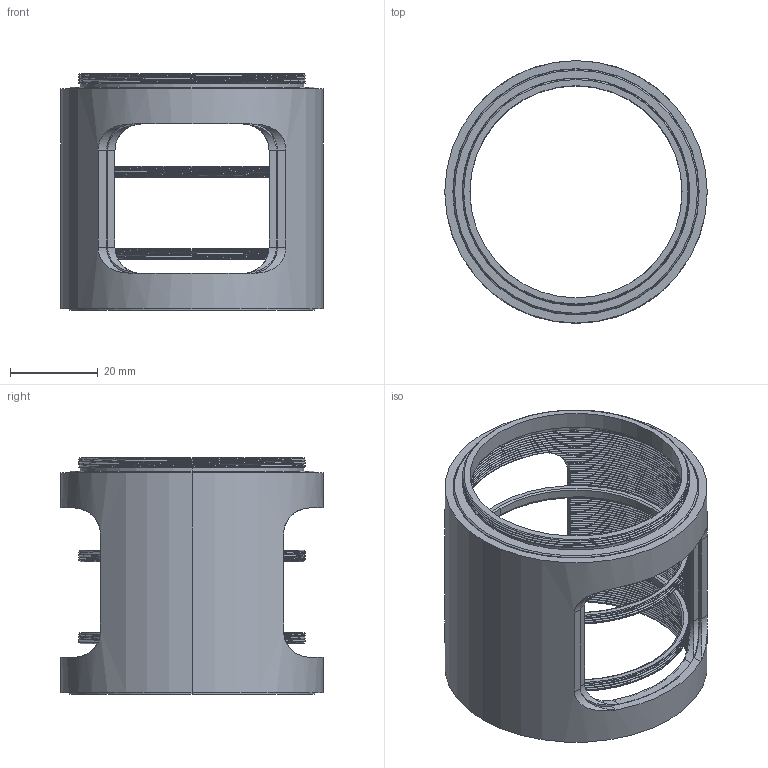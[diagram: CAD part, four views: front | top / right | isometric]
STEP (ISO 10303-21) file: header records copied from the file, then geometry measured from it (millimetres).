
FILE_DESCRIPTION((''),'2;1');
FILE_NAME('CSA2-50V1L_ASM','2021-05-11T',('Administrator'),(''),'CREO PARAMETRIC BY PTC INC, 2015290','CREO PARAMETRIC BY PTC INC, 2015290','');
FILE_SCHEMA(('CONFIG_CONTROL_DESIGN'));
Products named in the file (4): CSA2-50V1L_A1; CSA2-50V1L_A2; CSK4; CSA2-50V1L_ASM
Assembly tree (4 placements, depth 2):
  CSA2-50V1L_ASM
    CSA2-50V1L_A1
    CSA2-50V1L_A2
    CSK4  x2
Bounding box: 59.69 x 59.69 x 53.81 mm (x, y, z)
Volume: 24428.1 mm3; surface area: 34608.7 mm2
Topology: 4 solids, 4 shells, 579 faces, 1647 edges, 1084 vertices
Faces by surface type: bspline 266, cylinder 231, plane 58, cone 24
Entity records: 90775 total; most frequent: CARTESIAN_POINT 79327, ORIENTED_EDGE 3104, EDGE_CURVE 1552, DIRECTION 1145, B_SPLINE_CURVE_WITH_KNOTS 1101, VERTEX_POINT 1022, EDGE_LOOP 568, FACE_OUTER_BOUND 545
